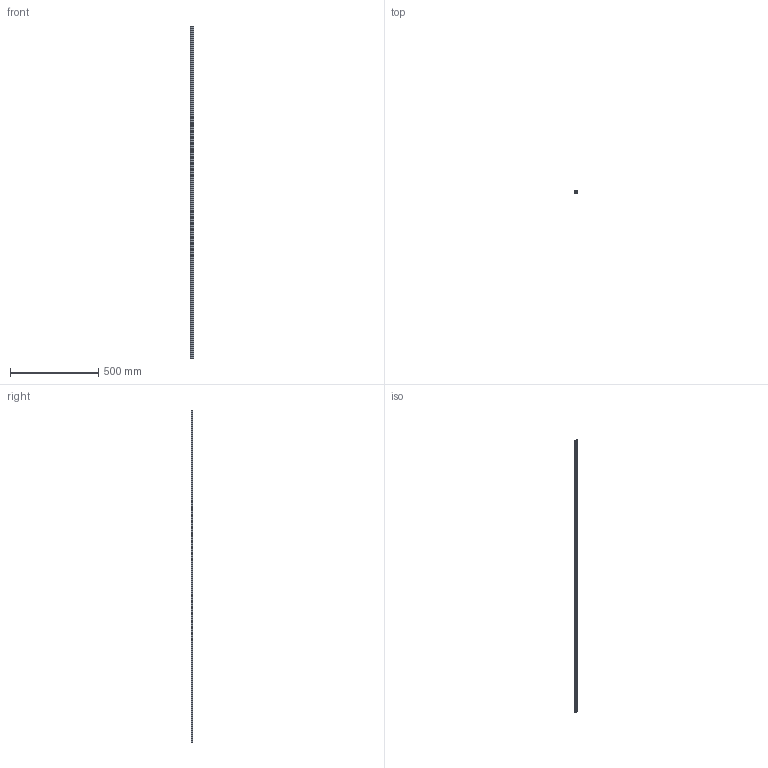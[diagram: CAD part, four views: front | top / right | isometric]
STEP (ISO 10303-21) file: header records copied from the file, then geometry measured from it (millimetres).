
FILE_DESCRIPTION(('STEP AP203'),'1');
FILE_NAME('slide_nv20l1886p3.stp','2022-07-01T04:23:28',('TraceParts'),('TraceParts S.A.'),'Spatial InterOp 3D',' ',' ');
FILE_SCHEMA(('CONFIG_CONTROL_DESIGN'));
Length unit declared in the file: millimetre
Products named in the file (1): 1
Bounding box: 20.27 x 10.41 x 1886 mm (x, y, z)
Volume: 254994.9 mm3; surface area: 118139.9 mm2
Topology: 1 solids, 1 shells, 133 faces, 330 edges, 220 vertices
Faces by surface type: cylinder 96, plane 37
Entity records: 4184 total; most frequent: DIRECTION 790, CARTESIAN_POINT 684, ORIENTED_EDGE 660, EDGE_CURVE 330, AXIS2_PLACEMENT_3D 326, VERTEX_POINT 220, EDGE_LOOP 196, CIRCLE 192
